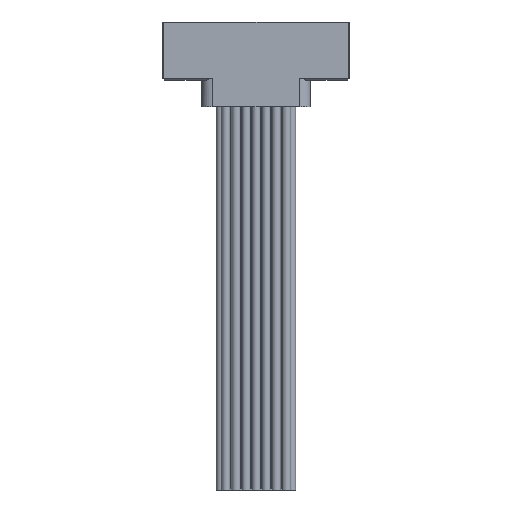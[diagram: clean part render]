
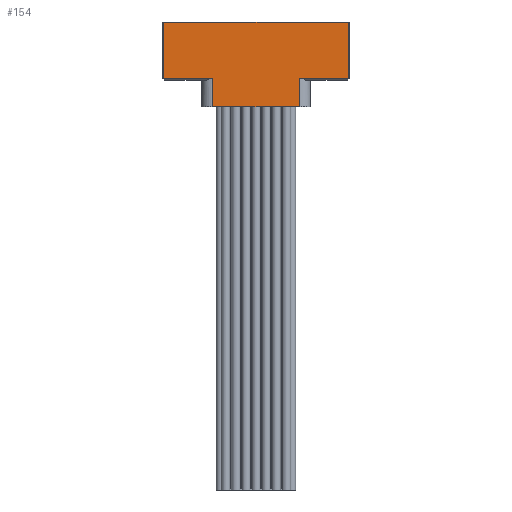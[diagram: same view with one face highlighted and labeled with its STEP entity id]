
A CAD part, front view. The second image highlights one B-rep face of the part: STEP entity #154.
In plain terms, the highlighted planar face has unit normal (0, -1, 0).
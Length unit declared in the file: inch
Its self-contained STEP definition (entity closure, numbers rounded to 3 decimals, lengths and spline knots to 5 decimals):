
#24 = VERTEX_POINT ( 'NONE', #2881 ) ;
#154 = ADVANCED_FACE ( 'NONE', ( #10941 ), #37840, .T. ) ;
#199 = EDGE_LOOP ( 'NONE', ( #14482, #14108, #33562, #19635, #15868, #26897, #30794, #18108 ) ) ;
#926 = DIRECTION ( 'NONE',  ( 1., 0., 0. ) ) ;
#2337 = VECTOR ( 'NONE', #10986, 39.37008 ) ;
#2881 = CARTESIAN_POINT ( 'NONE',  ( 0.4575, -0.13, -0.043 ) ) ;
#4259 = EDGE_CURVE ( 'NONE', #32786, #16586, #36282, .T. ) ;
#4439 = CARTESIAN_POINT ( 'NONE',  ( 0.214, -0.13, -0.184 ) ) ;
#4918 = EDGE_CURVE ( 'NONE', #26302, #24, #17961, .T. ) ;
#5013 = CARTESIAN_POINT ( 'NONE',  ( 0.214, -0.13, -0.043 ) ) ;
#5098 = VERTEX_POINT ( 'NONE', #4439 ) ;
#6004 = VECTOR ( 'NONE', #26901, 39.37008 ) ;
#6335 = DIRECTION ( 'NONE',  ( -1., 0., 0. ) ) ;
#6733 = CARTESIAN_POINT ( 'NONE',  ( 0.4625, -0.13, 0.235 ) ) ;
#6976 = DIRECTION ( 'NONE',  ( 0., 0., -1. ) ) ;
#9488 = CARTESIAN_POINT ( 'NONE',  ( 0.4575, -0.13, 0.235 ) ) ;
#9820 = CARTESIAN_POINT ( 'NONE',  ( 0.4625, -0.13, -0.043 ) ) ;
#9918 = VERTEX_POINT ( 'NONE', #24047 ) ;
#10894 = LINE ( 'NONE', #20756, #6004 ) ;
#10941 = FACE_OUTER_BOUND ( 'NONE', #199, .T. ) ;
#10986 = DIRECTION ( 'NONE',  ( 0., 0., 1. ) ) ;
#11312 = DIRECTION ( 'NONE',  ( 0., -1., 0. ) ) ;
#12532 = LINE ( 'NONE', #24288, #18377 ) ;
#12585 = EDGE_CURVE ( 'NONE', #37343, #16586, #10894, .T. ) ;
#12847 = CARTESIAN_POINT ( 'NONE',  ( 0.4625, -0.13, -0.043 ) ) ;
#13068 = EDGE_CURVE ( 'NONE', #5098, #26302, #37310, .T. ) ;
#13639 = VECTOR ( 'NONE', #21571, 39.37008 ) ;
#14108 = ORIENTED_EDGE ( 'NONE', *, *, #4918, .T. ) ;
#14482 = ORIENTED_EDGE ( 'NONE', *, *, #13068, .T. ) ;
#15618 = CARTESIAN_POINT ( 'NONE',  ( 0.214, -0.13, -0.184 ) ) ;
#15868 = ORIENTED_EDGE ( 'NONE', *, *, #27973, .T. ) ;
#16586 = VERTEX_POINT ( 'NONE', #24835 ) ;
#17961 = LINE ( 'NONE', #9820, #21106 ) ;
#18108 = ORIENTED_EDGE ( 'NONE', *, *, #37824, .T. ) ;
#18377 = VECTOR ( 'NONE', #6976, 39.37008 ) ;
#18501 = LINE ( 'NONE', #15618, #25646 ) ;
#19635 = ORIENTED_EDGE ( 'NONE', *, *, #30047, .T. ) ;
#19646 = AXIS2_PLACEMENT_3D ( 'NONE', #22757, #11312, #23110 ) ;
#20756 = CARTESIAN_POINT ( 'NONE',  ( -0.214, -0.13, -1.20233 ) ) ;
#21106 = VECTOR ( 'NONE', #26992, 39.37008 ) ;
#21380 = LINE ( 'NONE', #6733, #31453 ) ;
#21571 = DIRECTION ( 'NONE',  ( 1., 0., 0. ) ) ;
#22757 = CARTESIAN_POINT ( 'NONE',  ( 0.4625, -0.13, 0.235 ) ) ;
#23110 = DIRECTION ( 'NONE',  ( 0., 0., 1. ) ) ;
#23793 = CARTESIAN_POINT ( 'NONE',  ( -0.4575, -0.13, 0.235 ) ) ;
#24047 = CARTESIAN_POINT ( 'NONE',  ( 0.4575, -0.13, 0.235 ) ) ;
#24288 = CARTESIAN_POINT ( 'NONE',  ( -0.4575, -0.13, -0.053 ) ) ;
#24439 = VERTEX_POINT ( 'NONE', #23793 ) ;
#24835 = CARTESIAN_POINT ( 'NONE',  ( -0.214, -0.13, -0.043 ) ) ;
#25041 = CARTESIAN_POINT ( 'NONE',  ( -0.214, -0.13, -0.184 ) ) ;
#25646 = VECTOR ( 'NONE', #926, 39.37008 ) ;
#26023 = CARTESIAN_POINT ( 'NONE',  ( 0.214, -0.13, -1.20233 ) ) ;
#26195 = EDGE_CURVE ( 'NONE', #24, #9918, #33665, .T. ) ;
#26302 = VERTEX_POINT ( 'NONE', #5013 ) ;
#26897 = ORIENTED_EDGE ( 'NONE', *, *, #4259, .T. ) ;
#26901 = DIRECTION ( 'NONE',  ( 0., 0., 1. ) ) ;
#26992 = DIRECTION ( 'NONE',  ( 1., 0., 0. ) ) ;
#27973 = EDGE_CURVE ( 'NONE', #24439, #32786, #12532, .T. ) ;
#30047 = EDGE_CURVE ( 'NONE', #9918, #24439, #21380, .T. ) ;
#30794 = ORIENTED_EDGE ( 'NONE', *, *, #12585, .F. ) ;
#31453 = VECTOR ( 'NONE', #6335, 39.37008 ) ;
#31785 = CARTESIAN_POINT ( 'NONE',  ( -0.4575, -0.13, -0.043 ) ) ;
#32786 = VERTEX_POINT ( 'NONE', #31785 ) ;
#33562 = ORIENTED_EDGE ( 'NONE', *, *, #26195, .T. ) ;
#33665 = LINE ( 'NONE', #9488, #33734 ) ;
#33734 = VECTOR ( 'NONE', #36191, 39.37008 ) ;
#36191 = DIRECTION ( 'NONE',  ( 0., 0., 1. ) ) ;
#36282 = LINE ( 'NONE', #12847, #13639 ) ;
#37310 = LINE ( 'NONE', #26023, #2337 ) ;
#37343 = VERTEX_POINT ( 'NONE', #25041 ) ;
#37824 = EDGE_CURVE ( 'NONE', #37343, #5098, #18501, .T. ) ;
#37840 = PLANE ( 'NONE',  #19646 ) ;
